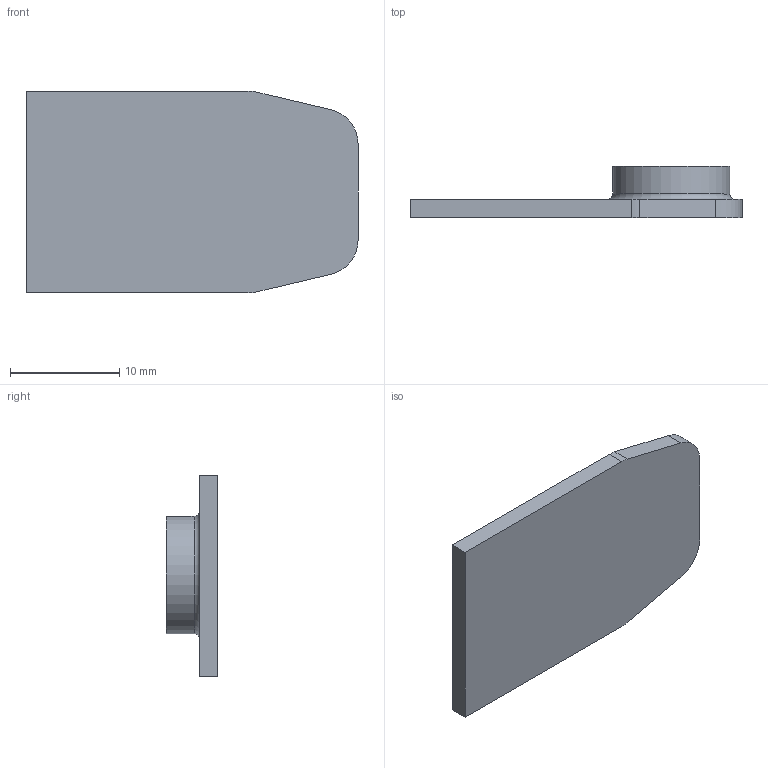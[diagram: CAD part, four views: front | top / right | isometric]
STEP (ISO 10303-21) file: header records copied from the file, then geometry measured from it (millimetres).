
FILE_DESCRIPTION(/* description */ (''),/* implementation_level */ '2;1');
FILE_NAME(/* name */ 'E:\MenMag v2.0\Menendez Magazine Pack v2.0\STEP\Locking Tab Standard v2.0.stp',/* time_stamp */ '2021-03-26T09:43:19-05:00',/* author */ ('johne'),/* organization */ (''),/* preprocessor_version */ 'ST-DEVELOPER v18',/* originating_system */ 'Autodesk Inventor 2020',/* authorisation */ '');
FILE_SCHEMA (('AUTOMOTIVE_DESIGN { 1 0 10303 214 3 1 1 }'));
Length unit declared in the file: inch
Products named in the file (1): Menendez Mag Locking Tab v2.0
Bounding box: 30.36 x 4.7 x 18.47 mm (x, y, z)
Volume: 1161.6 mm3; surface area: 1319 mm2
Topology: 1 solids, 1 shells, 15 faces, 37 edges, 25 vertices
Faces by surface type: plane 9, cylinder 5, torus 1
Full cylindrical faces by diameter (mm): 10.719 x1
Entity records: 496 total; most frequent: DIRECTION 83, CARTESIAN_POINT 78, ORIENTED_EDGE 74, EDGE_CURVE 37, AXIS2_PLACEMENT_3D 30, VERTEX_POINT 25, LINE 23, VECTOR 23
